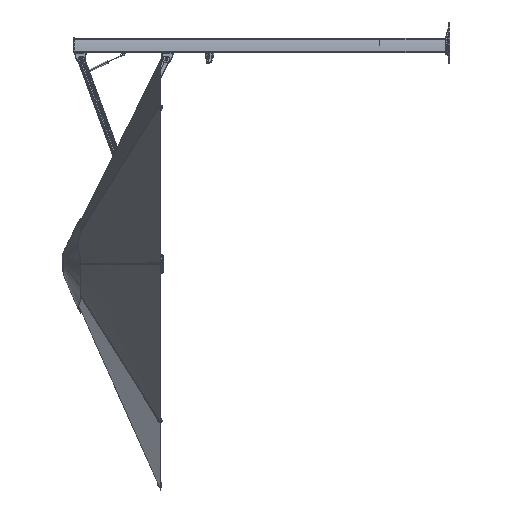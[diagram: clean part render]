
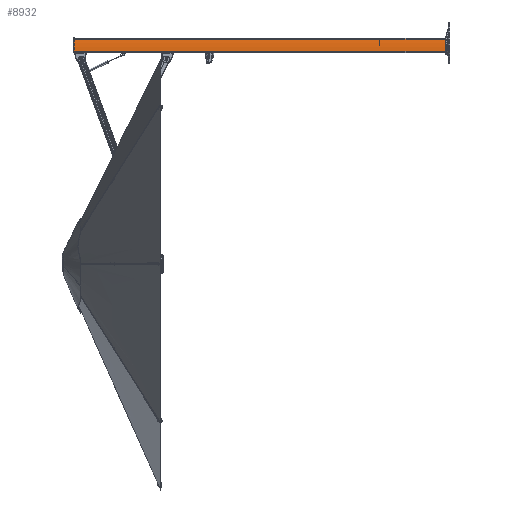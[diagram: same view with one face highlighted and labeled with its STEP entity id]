
A CAD part, left-side view. The second image highlights one B-rep face of the part: STEP entity #8932.
In plain terms, the highlighted cylindrical face has radius 528.498 mm (diameter 1057 mm), a partial arc.
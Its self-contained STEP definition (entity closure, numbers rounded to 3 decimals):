
#77 = AXIS2_PLACEMENT_3D ( 'NONE', #8923, #22643, #81990 ) ;
#6050 = AXIS2_PLACEMENT_3D ( 'NONE', #8275, #68228, #14727 ) ;
#7671 = ORIENTED_EDGE ( 'NONE', *, *, #32103, .F. ) ;
#8275 = CARTESIAN_POINT ( 'NONE',  ( 485.498, 1400., -52.823 ) ) ;
#8923 = CARTESIAN_POINT ( 'NONE',  ( 485.498, -1400., -52.823 ) ) ;
#8932 = ADVANCED_FACE ( 'NONE', ( #66232 ), #51577, .T. ) ;
#10761 = CIRCLE ( 'NONE', #84804, 528.498 ) ;
#13388 = EDGE_CURVE ( 'NONE', #16596, #80500, #50097, .T. ) ;
#14285 = VERTEX_POINT ( 'NONE', #53014 ) ;
#14727 = DIRECTION ( 'NONE',  ( 0., 0., -1. ) ) ;
#16357 = VERTEX_POINT ( 'NONE', #73970 ) ;
#16596 = VERTEX_POINT ( 'NONE', #23591 ) ;
#20646 = LINE ( 'NONE', #53080, #71586 ) ;
#21942 = EDGE_CURVE ( 'NONE', #14285, #16596, #20646, .T. ) ;
#22643 = DIRECTION ( 'NONE',  ( 0., 1., 0. ) ) ;
#23591 = CARTESIAN_POINT ( 'NONE',  ( -42.958, -1400., -46.19 ) ) ;
#26449 = EDGE_LOOP ( 'NONE', ( #71383, #7671, #61614, #50397 ) ) ;
#26898 = CARTESIAN_POINT ( 'NONE',  ( -33.771, -1400., 45.515 ) ) ;
#30683 = VECTOR ( 'NONE', #67036, 1000. ) ;
#32103 = EDGE_CURVE ( 'NONE', #16357, #80500, #46315, .T. ) ;
#33584 = CARTESIAN_POINT ( 'NONE',  ( -33.771, 1400., 45.515 ) ) ;
#44973 = DIRECTION ( 'NONE',  ( 0., 1., 0. ) ) ;
#45564 = DIRECTION ( 'NONE',  ( 0., 0., -1. ) ) ;
#46315 = LINE ( 'NONE', #33584, #30683 ) ;
#50097 = CIRCLE ( 'NONE', #77, 528.498 ) ;
#50397 = ORIENTED_EDGE ( 'NONE', *, *, #21942, .T. ) ;
#51577 = CYLINDRICAL_SURFACE ( 'NONE', #6050, 528.498 ) ;
#53014 = CARTESIAN_POINT ( 'NONE',  ( -42.958, 1480., -46.19 ) ) ;
#53080 = CARTESIAN_POINT ( 'NONE',  ( -42.958, 1400., -46.19 ) ) ;
#60068 = DIRECTION ( 'NONE',  ( 0., -1., 0. ) ) ;
#61614 = ORIENTED_EDGE ( 'NONE', *, *, #86183, .F. ) ;
#66232 = FACE_OUTER_BOUND ( 'NONE', #26449, .T. ) ;
#67036 = DIRECTION ( 'NONE',  ( 0., -1., 0. ) ) ;
#68228 = DIRECTION ( 'NONE',  ( 0., -1., 0. ) ) ;
#71383 = ORIENTED_EDGE ( 'NONE', *, *, #13388, .T. ) ;
#71586 = VECTOR ( 'NONE', #60068, 1000. ) ;
#72322 = CARTESIAN_POINT ( 'NONE',  ( 485.498, 1480., -52.823 ) ) ;
#73970 = CARTESIAN_POINT ( 'NONE',  ( -33.771, 1480., 45.515 ) ) ;
#80500 = VERTEX_POINT ( 'NONE', #26898 ) ;
#81990 = DIRECTION ( 'NONE',  ( 0., 0., 1. ) ) ;
#84804 = AXIS2_PLACEMENT_3D ( 'NONE', #72322, #44973, #45564 ) ;
#86183 = EDGE_CURVE ( 'NONE', #14285, #16357, #10761, .T. ) ;
